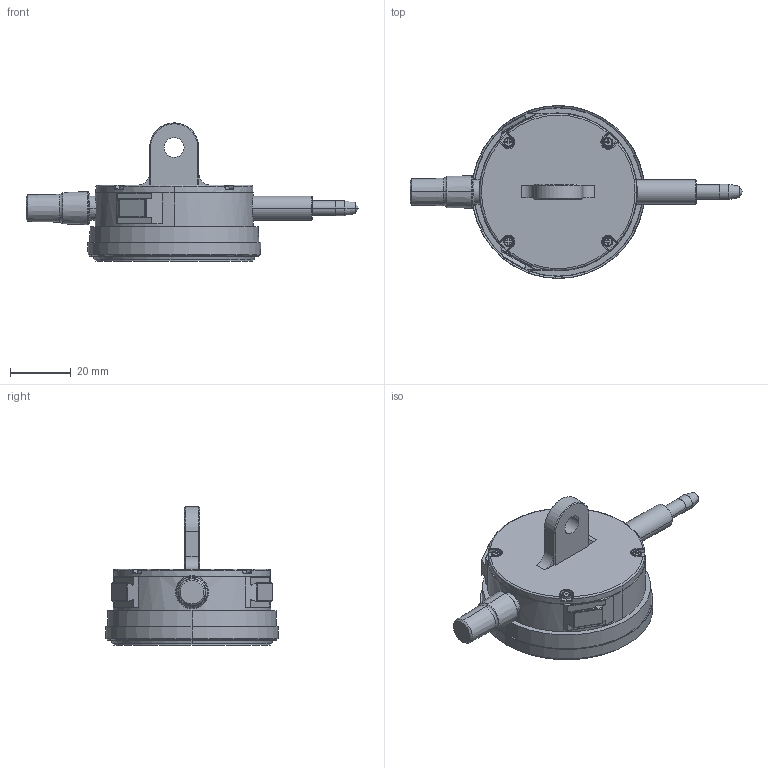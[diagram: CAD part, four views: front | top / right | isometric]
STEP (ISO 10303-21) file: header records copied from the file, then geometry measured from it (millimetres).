
FILE_DESCRIPTION(('Creo Elements/Direct Modeling STEP Export'),'2;1');
FILE_NAME('2109S-10.stp','2020-03-23T10:26:28',(''),(''),'Creo Elements/Direct Modeling STEP processor for AP214 (Solid Model)','Creo Elements/Direct Modeling 18.1I 13-Aug-2016 (C) Parametric Technology GmbH','');
FILE_SCHEMA(('AUTOMOTIVE_DESIGN { 1 0 10303 214 1 1 1 1 }'));
Length unit declared in the file: millimetre
Products named in the file (2): 2109S-10
Assembly tree (1 placements, depth 2):
  2109S-10
    2109S-10
Bounding box: 109.3 x 56.99 x 45.53 mm (x, y, z)
Volume: 60994.2 mm3; surface area: 11743.5 mm2
Topology: 1 solids, 1 shells, 297 faces, 724 edges, 447 vertices
Faces by surface type: plane 127, cylinder 72, cone 34, bspline 32, torus 30, sphere 2
Entity records: 13598 total; most frequent: CARTESIAN_POINT 7063, ORIENTED_EDGE 1444, DIRECTION 1230, EDGE_CURVE 722, VERTEX_POINT 447, AXIS2_PLACEMENT_3D 426, VECTOR 378, LINE 378
